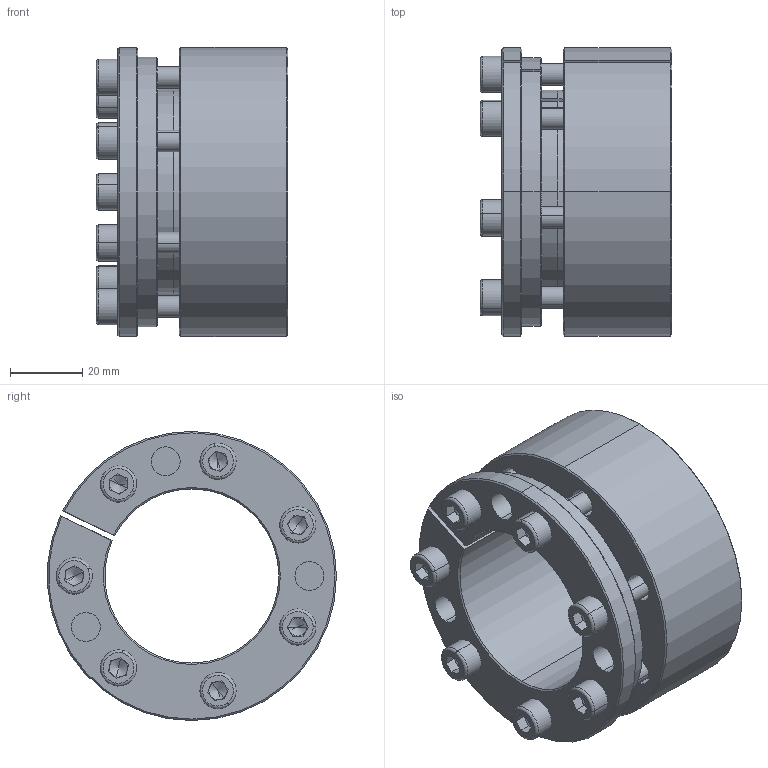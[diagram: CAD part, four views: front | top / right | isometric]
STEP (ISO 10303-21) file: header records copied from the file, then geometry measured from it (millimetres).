
FILE_DESCRIPTION (( 'STEP AP214' ), '1' );
FILE_NAME ('PL-H2 48-80.STEP', '2022-07-25T02:07:13', ( '' ), ( '' ), 'SwSTEP 2.0', 'SolidWorks 2022', '' );
FILE_SCHEMA (( 'AUTOMOTIVE_DESIGN' ));
Length unit declared in the file: millimetre
Products named in the file (1): PL-H2 48-80
Bounding box: 53 x 79.8 x 79.9 mm (x, y, z)
Volume: 120215.5 mm3; surface area: 42896.6 mm2
Topology: 1 solids, 1 shells, 268 faces, 657 edges, 398 vertices
Faces by surface type: plane 113, cylinder 77, cone 64, torus 14
Entity records: 7894 total; most frequent: DIRECTION 1462, CARTESIAN_POINT 1382, ORIENTED_EDGE 1286, EDGE_CURVE 643, AXIS2_PLACEMENT_3D 574, VERTEX_POINT 398, LINE 314, VECTOR 314
